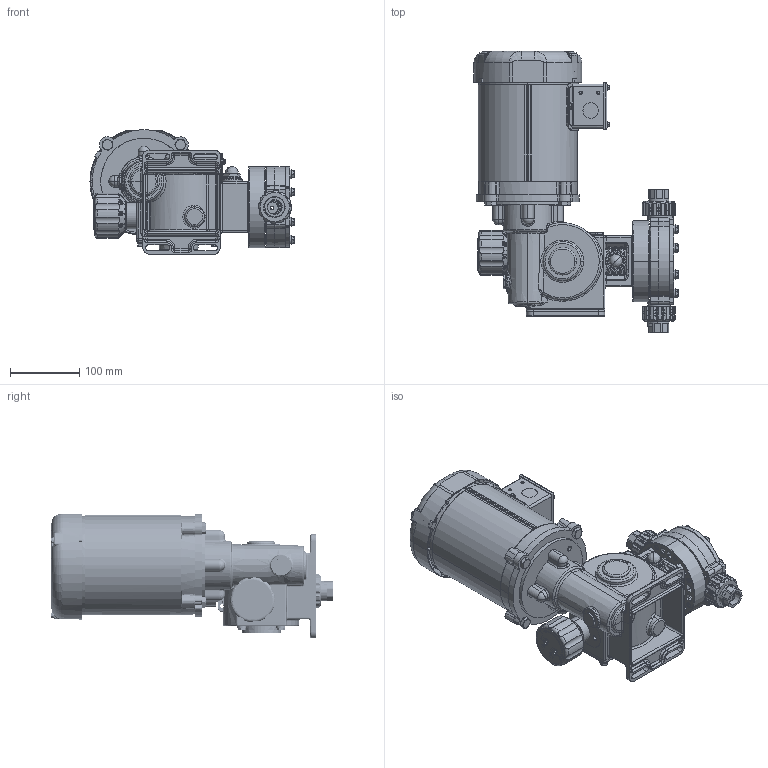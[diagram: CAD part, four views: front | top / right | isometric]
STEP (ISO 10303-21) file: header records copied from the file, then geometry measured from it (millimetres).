
FILE_DESCRIPTION (( 'STEP AP203' ), '1' );
FILE_NAME ('DM2D3FC.STEP', '2025-03-18T14:19:52', ( '' ), ( '' ), 'SwSTEP 2.0', 'SolidWorks 2023', '' );
FILE_SCHEMA (( 'CONFIG_CONTROL_DESIGN' ));
Length unit declared in the file: inch
Products named in the file (1): DM2D3FC
Bounding box: 294.28 x 405.72 x 179.33 mm (x, y, z)
Surface area: 502044.7 mm2 (no closed solid volume)
Topology: 0 solids, 256 shells, 2681 faces, 14201 edges, 11446 vertices
Faces by surface type: plane 877, cylinder 875, bspline 420, cone 305, torus 149, sphere 55
Entity records: 191369 total; most frequent: CARTESIAN_POINT 91341, ORIENTED_EDGE 19247, DIRECTION 17657, EDGE_CURVE 14157, VERTEX_POINT 11438, AXIS2_PLACEMENT_3D 5918, VECTOR 5821, LINE 5821
